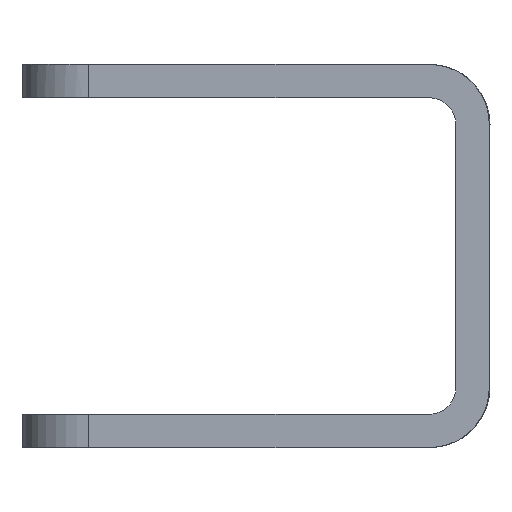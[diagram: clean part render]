
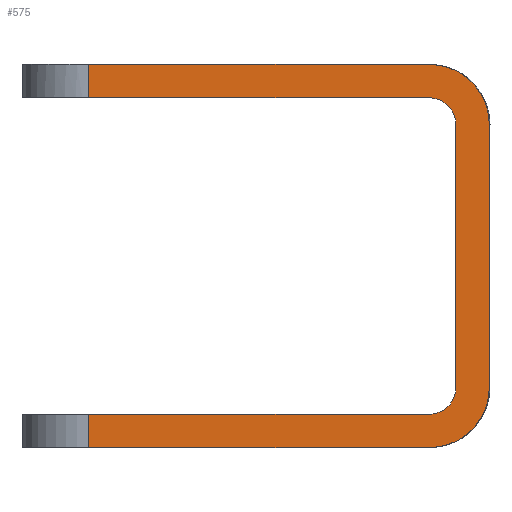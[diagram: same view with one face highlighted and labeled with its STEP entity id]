
A CAD part, left-side view. The second image highlights one B-rep face of the part: STEP entity #575.
In plain terms, the highlighted planar face has unit normal (-1, 0, 0).
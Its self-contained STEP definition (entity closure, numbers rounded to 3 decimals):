
#314=AXIS2_PLACEMENT_3D('Circle Axis2P3D',#312,#313,$) ;
#390=AXIS2_PLACEMENT_3D('Circle Axis2P3D',#388,#389,$) ;
#505=AXIS2_PLACEMENT_3D('Circle Axis2P3D',#503,#504,$) ;
#518=AXIS2_PLACEMENT_3D('Plane Axis2P3D',#515,#516,#517) ;
#114=CARTESIAN_POINT('Vertex',(1042.126,-713.497,163.553)) ;
#135=CARTESIAN_POINT('Vertex',(1042.129,-687.997,163.553)) ;
#138=CARTESIAN_POINT('Line Origine',(1042.127,-700.747,163.553)) ;
#241=CARTESIAN_POINT('Line Origine',(1042.127,-700.747,161.053)) ;
#245=CARTESIAN_POINT('Vertex',(1042.129,-687.997,161.053)) ;
#247=CARTESIAN_POINT('Vertex',(1042.126,-713.497,161.053)) ;
#312=CARTESIAN_POINT('Axis2P3D Location',(1042.126,-713.497,165.553)) ;
#316=CARTESIAN_POINT('Vertex',(1042.125,-717.997,165.553)) ;
#343=CARTESIAN_POINT('Line Origine',(1042.125,-717.997,175.403)) ;
#347=CARTESIAN_POINT('Vertex',(1042.125,-717.997,185.253)) ;
#385=CARTESIAN_POINT('Vertex',(1042.126,-713.497,189.753)) ;
#388=CARTESIAN_POINT('Axis2P3D Location',(1042.126,-713.497,185.253)) ;
#469=CARTESIAN_POINT('Vertex',(1042.125,-715.497,185.253)) ;
#476=CARTESIAN_POINT('Vertex',(1042.125,-715.497,165.553)) ;
#479=CARTESIAN_POINT('Line Origine',(1042.125,-715.497,175.403)) ;
#500=CARTESIAN_POINT('Vertex',(1042.126,-713.497,187.253)) ;
#503=CARTESIAN_POINT('Axis2P3D Location',(1042.126,-713.497,185.253)) ;
#515=CARTESIAN_POINT('Axis2P3D Location',(1042.125,-717.958,178.853)) ;
#521=CARTESIAN_POINT('Control Point',(1042.125,-715.497,165.553)) ;
#522=CARTESIAN_POINT('Control Point',(1042.125,-715.497,165.435)) ;
#523=CARTESIAN_POINT('Control Point',(1042.125,-715.488,165.317)) ;
#524=CARTESIAN_POINT('Control Point',(1042.125,-715.471,165.192)) ;
#525=CARTESIAN_POINT('Control Point',(1042.125,-715.397,164.874)) ;
#526=CARTESIAN_POINT('Control Point',(1042.125,-715.25,164.558)) ;
#527=CARTESIAN_POINT('Control Point',(1042.125,-715.137,164.381)) ;
#528=CARTESIAN_POINT('Control Point',(1042.125,-714.868,164.06)) ;
#529=CARTESIAN_POINT('Control Point',(1042.125,-714.527,163.82)) ;
#530=CARTESIAN_POINT('Control Point',(1042.125,-714.343,163.723)) ;
#531=CARTESIAN_POINT('Control Point',(1042.126,-714.051,163.617)) ;
#532=CARTESIAN_POINT('Control Point',(1042.126,-713.77,163.568)) ;
#533=CARTESIAN_POINT('Control Point',(1042.126,-713.675,163.558)) ;
#534=CARTESIAN_POINT('Control Point',(1042.126,-713.586,163.553)) ;
#535=CARTESIAN_POINT('Control Point',(1042.126,-713.497,163.553)) ;
#537=CARTESIAN_POINT('Line Origine',(1042.129,-687.997,162.303)) ;
#542=CARTESIAN_POINT('Line Origine',(1042.127,-700.747,189.753)) ;
#546=CARTESIAN_POINT('Vertex',(1042.129,-687.997,189.753)) ;
#549=CARTESIAN_POINT('Line Origine',(1042.129,-687.997,188.503)) ;
#553=CARTESIAN_POINT('Vertex',(1042.129,-687.997,187.253)) ;
#556=CARTESIAN_POINT('Line Origine',(1042.127,-700.747,187.253)) ;
#139=DIRECTION('Vector Direction',(0.,-1.,0.)) ;
#242=DIRECTION('Vector Direction',(0.,-1.,0.)) ;
#313=DIRECTION('Axis2P3D Direction',(1.,0.,0.)) ;
#344=DIRECTION('Vector Direction',(0.,0.,-1.)) ;
#389=DIRECTION('Axis2P3D Direction',(-1.,0.,0.)) ;
#480=DIRECTION('Vector Direction',(0.,0.,-1.)) ;
#504=DIRECTION('Axis2P3D Direction',(-1.,0.,0.)) ;
#516=DIRECTION('Axis2P3D Direction',(-1.,0.,0.)) ;
#517=DIRECTION('Axis2P3D XDirection',(0.,1.,0.)) ;
#538=DIRECTION('Vector Direction',(0.,0.,-1.)) ;
#543=DIRECTION('Vector Direction',(0.,-1.,0.)) ;
#550=DIRECTION('Vector Direction',(0.,0.,-1.)) ;
#557=DIRECTION('Vector Direction',(0.,-1.,0.)) ;
#140=VECTOR('Line Direction',#139,1.) ;
#243=VECTOR('Line Direction',#242,1.) ;
#345=VECTOR('Line Direction',#344,1.) ;
#481=VECTOR('Line Direction',#480,1.) ;
#539=VECTOR('Line Direction',#538,1.) ;
#544=VECTOR('Line Direction',#543,1.) ;
#551=VECTOR('Line Direction',#550,1.) ;
#558=VECTOR('Line Direction',#557,1.) ;
#562=ORIENTED_EDGE('',*,*,#507,.T.) ;
#563=ORIENTED_EDGE('',*,*,#483,.T.) ;
#564=ORIENTED_EDGE('',*,*,#536,.F.) ;
#565=ORIENTED_EDGE('',*,*,#142,.F.) ;
#566=ORIENTED_EDGE('',*,*,#541,.T.) ;
#567=ORIENTED_EDGE('',*,*,#249,.T.) ;
#568=ORIENTED_EDGE('',*,*,#318,.T.) ;
#569=ORIENTED_EDGE('',*,*,#349,.F.) ;
#570=ORIENTED_EDGE('',*,*,#392,.F.) ;
#571=ORIENTED_EDGE('',*,*,#548,.F.) ;
#572=ORIENTED_EDGE('',*,*,#555,.T.) ;
#573=ORIENTED_EDGE('',*,*,#560,.T.) ;
#575=ADVANCED_FACE('\X2\51E04F554F53\X0\.11',(#574),#519,.T.) ;
#520=B_SPLINE_CURVE_WITH_KNOTS('',5,(#521,#522,#523,#524,#525,#526,#527,#528,#529,#530,#531,#532,#533,#534,#535),.UNSPECIFIED.,.F.,.U.,(6,3,3,3,6),(0.,0.959,2.344,3.733,4.457),.UNSPECIFIED.) ;
#315=CIRCLE('generated circle',#314,4.5) ;
#391=CIRCLE('generated circle',#390,4.5) ;
#506=CIRCLE('generated circle',#505,2.) ;
#142=EDGE_CURVE('',#136,#115,#141,.T.) ;
#249=EDGE_CURVE('',#246,#248,#244,.T.) ;
#318=EDGE_CURVE('',#248,#317,#315,.F.) ;
#349=EDGE_CURVE('',#348,#317,#346,.T.) ;
#392=EDGE_CURVE('',#386,#348,#391,.F.) ;
#483=EDGE_CURVE('',#470,#477,#482,.T.) ;
#507=EDGE_CURVE('',#501,#470,#506,.F.) ;
#536=EDGE_CURVE('',#115,#477,#520,.F.) ;
#541=EDGE_CURVE('',#136,#246,#540,.T.) ;
#548=EDGE_CURVE('',#547,#386,#545,.T.) ;
#555=EDGE_CURVE('',#547,#554,#552,.T.) ;
#560=EDGE_CURVE('',#554,#501,#559,.T.) ;
#561=EDGE_LOOP('',(#562,#563,#564,#565,#566,#567,#568,#569,#570,#571,#572,#573)) ;
#574=FACE_OUTER_BOUND('',#561,.T.) ;
#141=LINE('Line',#138,#140) ;
#244=LINE('Line',#241,#243) ;
#346=LINE('Line',#343,#345) ;
#482=LINE('Line',#479,#481) ;
#540=LINE('Line',#537,#539) ;
#545=LINE('Line',#542,#544) ;
#552=LINE('Line',#549,#551) ;
#559=LINE('Line',#556,#558) ;
#519=PLANE('Plane',#518) ;
#115=VERTEX_POINT('',#114) ;
#136=VERTEX_POINT('',#135) ;
#246=VERTEX_POINT('',#245) ;
#248=VERTEX_POINT('',#247) ;
#317=VERTEX_POINT('',#316) ;
#348=VERTEX_POINT('',#347) ;
#386=VERTEX_POINT('',#385) ;
#470=VERTEX_POINT('',#469) ;
#477=VERTEX_POINT('',#476) ;
#501=VERTEX_POINT('',#500) ;
#547=VERTEX_POINT('',#546) ;
#554=VERTEX_POINT('',#553) ;
